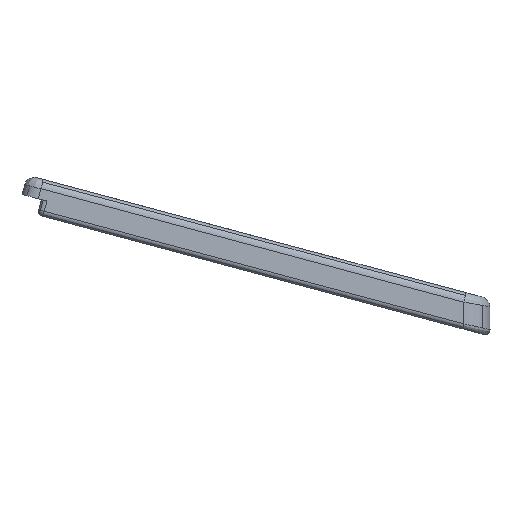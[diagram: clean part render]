
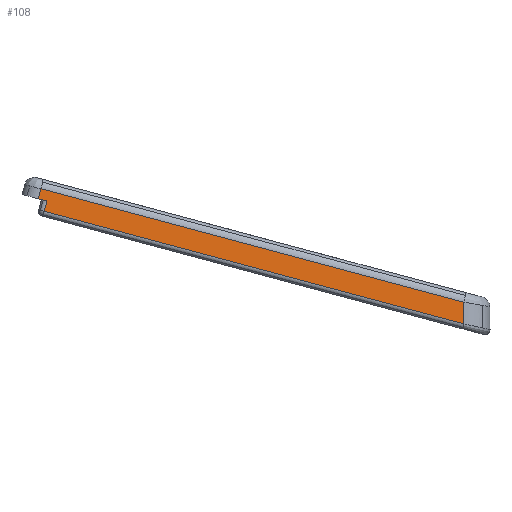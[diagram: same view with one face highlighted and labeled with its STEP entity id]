
A CAD part, left-side view. The second image highlights one B-rep face of the part: STEP entity #108.
In plain terms, the highlighted planar face has unit normal (-0.991, -0.134, 0).
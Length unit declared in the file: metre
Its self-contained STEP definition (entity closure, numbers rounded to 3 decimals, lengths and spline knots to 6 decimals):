
#108=ADVANCED_FACE('0:80',(#267),#268,.T.);
#267=FACE_OUTER_BOUND('',#1598,.T.);
#268=PLANE('',#1599);
#1598=EDGE_LOOP('',(#2482,#2483,#2484,#2485,#2486,#2487));
#1599=AXIS2_PLACEMENT_3D('',#2488,#2489,#2490);
#2482=ORIENTED_EDGE('',*,*,#3062,.F.);
#2483=ORIENTED_EDGE('',*,*,#3073,.F.);
#2484=ORIENTED_EDGE('',*,*,#3074,.F.);
#2485=ORIENTED_EDGE('',*,*,#3075,.F.);
#2486=ORIENTED_EDGE('',*,*,#3076,.F.);
#2487=ORIENTED_EDGE('',*,*,#2977,.F.);
#2488=CARTESIAN_POINT('',(0.0173,-0.077115,0.003796));
#2489=DIRECTION('',(-0.991,-0.134,0.));
#2490=DIRECTION('',(0.134,-0.991,0.));
#2977=EDGE_CURVE('0:323',#3336,#3338,#3339,.T.);
#3062=EDGE_CURVE('0:296',#3475,#3336,#3482,.T.);
#3073=EDGE_CURVE('0:332',#3496,#3475,#3497,.T.);
#3074=EDGE_CURVE('0:335',#3498,#3496,#3499,.T.);
#3075=EDGE_CURVE('0:338',#3218,#3498,#3500,.T.);
#3076=EDGE_CURVE('0:341',#3338,#3218,#3501,.T.);
#3218=VERTEX_POINT('',#3672);
#3336=VERTEX_POINT('',#3819);
#3338=VERTEX_POINT('',#3821);
#3339=LINE('',#3822,#3823);
#3475=VERTEX_POINT('',#3984);
#3482=LINE('',#3992,#3993);
#3496=VERTEX_POINT('',#4009);
#3497=LINE('',#4010,#4011);
#3498=VERTEX_POINT('',#4012);
#3499=LINE('',#4013,#4014);
#3500=LINE('',#4015,#4016);
#3501=LINE('',#4017,#4018);
#3672=CARTESIAN_POINT('',(0.017572,-0.079128,0.014776));
#3819=CARTESIAN_POINT('',(0.023225,-0.121044,0.005705));
#3821=CARTESIAN_POINT('',(0.023225,-0.121044,0.003544));
#3822=CARTESIAN_POINT('',(0.023225,-0.121044,-0.000641));
#3823=VECTOR('',#4323,1.0);
#3984=CARTESIAN_POINT('',(0.01753,-0.078815,0.01702));
#3992=CARTESIAN_POINT('',(0.01928,-0.091791,0.013544));
#3993=VECTOR('',#4524,1.0);
#4009=CARTESIAN_POINT('',(0.017494,-0.078548,0.016021));
#4010=CARTESIAN_POINT('',(0.017332,-0.077345,0.011534));
#4011=VECTOR('',#4551,1.);
#4012=CARTESIAN_POINT('',(0.017608,-0.079396,0.015794));
#4013=CARTESIAN_POINT('',(0.019244,-0.091528,0.012543));
#4014=VECTOR('',#4552,1.0);
#4015=CARTESIAN_POINT('',(0.01743,-0.078077,0.010778));
#4016=VECTOR('',#4553,1.0);
#4017=CARTESIAN_POINT('',(0.019271,-0.091729,0.011399));
#4018=VECTOR('',#4554,1.0);
#4323=DIRECTION('',(0.,0.,-1.));
#4524=DIRECTION('',(0.129,-0.958,-0.257));
#4551=DIRECTION('',(0.035,-0.259,0.965));
#4552=DIRECTION('',(-0.129,0.958,0.257));
#4553=DIRECTION('',(0.034,-0.254,0.967));
#4554=DIRECTION('',(-0.129,0.958,0.257));
